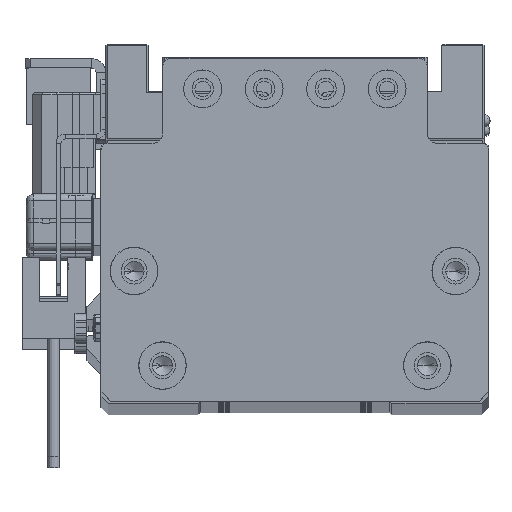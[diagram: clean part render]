
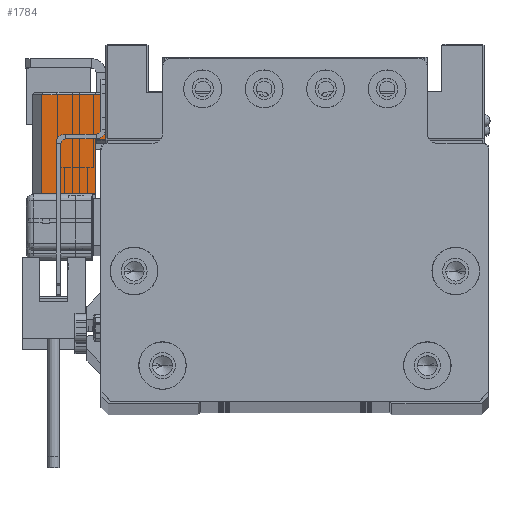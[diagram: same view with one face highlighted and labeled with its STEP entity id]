
A CAD part, top view. The second image highlights one B-rep face of the part: STEP entity #1784.
In plain terms, the highlighted planar face has unit normal (0, 0, 1) as drawn and (1, 0, 0) by its records, which use the part's own axes.
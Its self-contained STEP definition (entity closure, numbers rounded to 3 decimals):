
#904 = CARTESIAN_POINT ( 'NONE',  ( 17., -10.75, -15.5 ) ) ;
#1784 = ADVANCED_FACE ( 'NONE', ( #27959 ), #8241, .T. ) ;
#2708 = DIRECTION ( 'NONE',  ( 0., 0., 1. ) ) ;
#2964 = ORIENTED_EDGE ( 'NONE', *, *, #32473, .T. ) ;
#4217 = ORIENTED_EDGE ( 'NONE', *, *, #25251, .T. ) ;
#5618 = EDGE_CURVE ( 'NONE', #9529, #26313, #44478, .T. ) ;
#6770 = CARTESIAN_POINT ( 'NONE',  ( 17., 0.75, -15.5 ) ) ;
#7470 = EDGE_LOOP ( 'NONE', ( #4217, #2964, #59720, #7984, #66084, #18319 ) ) ;
#7830 = EDGE_CURVE ( 'NONE', #26313, #28901, #43389, .T. ) ;
#7984 = ORIENTED_EDGE ( 'NONE', *, *, #51587, .F. ) ;
#8241 = PLANE ( 'NONE',  #18249 ) ;
#9420 = VERTEX_POINT ( 'NONE', #43324 ) ;
#9529 = VERTEX_POINT ( 'NONE', #49821 ) ;
#10312 = CARTESIAN_POINT ( 'NONE',  ( 17., 10.25, -15.5 ) ) ;
#18249 = AXIS2_PLACEMENT_3D ( 'NONE', #33368, #39158, #22531 ) ;
#18319 = ORIENTED_EDGE ( 'NONE', *, *, #5618, .F. ) ;
#22531 = DIRECTION ( 'NONE',  ( 0., 0., -1. ) ) ;
#23834 = DIRECTION ( 'NONE',  ( 0., 1., 0. ) ) ;
#24186 = CARTESIAN_POINT ( 'NONE',  ( 17., -10.75, -15.5 ) ) ;
#25251 = EDGE_CURVE ( 'NONE', #9529, #36526, #40475, .T. ) ;
#26313 = VERTEX_POINT ( 'NONE', #53876 ) ;
#27959 = FACE_OUTER_BOUND ( 'NONE', #7470, .T. ) ;
#28901 = VERTEX_POINT ( 'NONE', #51591 ) ;
#29976 = VECTOR ( 'NONE', #61023, 1000. ) ;
#31740 = VECTOR ( 'NONE', #2708, 1000. ) ;
#32473 = EDGE_CURVE ( 'NONE', #36526, #9420, #51599, .T. ) ;
#33368 = CARTESIAN_POINT ( 'NONE',  ( 17., -10.75, -15.5 ) ) ;
#35461 = LINE ( 'NONE', #45351, #29976 ) ;
#36526 = VERTEX_POINT ( 'NONE', #10312 ) ;
#36570 = DIRECTION ( 'NONE',  ( 0., 0., 1. ) ) ;
#38299 = CARTESIAN_POINT ( 'NONE',  ( 17., -10.75, -13.3 ) ) ;
#39158 = DIRECTION ( 'NONE',  ( 1., 0., 0. ) ) ;
#40475 = LINE ( 'NONE', #24186, #52122 ) ;
#43324 = CARTESIAN_POINT ( 'NONE',  ( 17., 10.25, -2. ) ) ;
#43389 = LINE ( 'NONE', #38299, #47205 ) ;
#44478 = LINE ( 'NONE', #6770, #31740 ) ;
#45351 = CARTESIAN_POINT ( 'NONE',  ( 17., -10.75, -2. ) ) ;
#46801 = CARTESIAN_POINT ( 'NONE',  ( 17., -10.75, -2. ) ) ;
#47205 = VECTOR ( 'NONE', #47530, 1000. ) ;
#47488 = LINE ( 'NONE', #904, #53974 ) ;
#47530 = DIRECTION ( 'NONE',  ( 0., -1., 0. ) ) ;
#49821 = CARTESIAN_POINT ( 'NONE',  ( 17., 0.75, -15.5 ) ) ;
#50820 = VECTOR ( 'NONE', #52246, 1000. ) ;
#51587 = EDGE_CURVE ( 'NONE', #28901, #64432, #47488, .T. ) ;
#51591 = CARTESIAN_POINT ( 'NONE',  ( 17., -10.75, -13.3 ) ) ;
#51599 = LINE ( 'NONE', #61460, #50820 ) ;
#52122 = VECTOR ( 'NONE', #23834, 1000. ) ;
#52246 = DIRECTION ( 'NONE',  ( 0., 0., 1. ) ) ;
#53876 = CARTESIAN_POINT ( 'NONE',  ( 17., 0.75, -13.3 ) ) ;
#53974 = VECTOR ( 'NONE', #36570, 1000. ) ;
#59720 = ORIENTED_EDGE ( 'NONE', *, *, #66862, .T. ) ;
#61023 = DIRECTION ( 'NONE',  ( 0., -1., 0. ) ) ;
#61460 = CARTESIAN_POINT ( 'NONE',  ( 17., 10.25, -15.5 ) ) ;
#64432 = VERTEX_POINT ( 'NONE', #46801 ) ;
#66084 = ORIENTED_EDGE ( 'NONE', *, *, #7830, .F. ) ;
#66862 = EDGE_CURVE ( 'NONE', #9420, #64432, #35461, .T. ) ;
